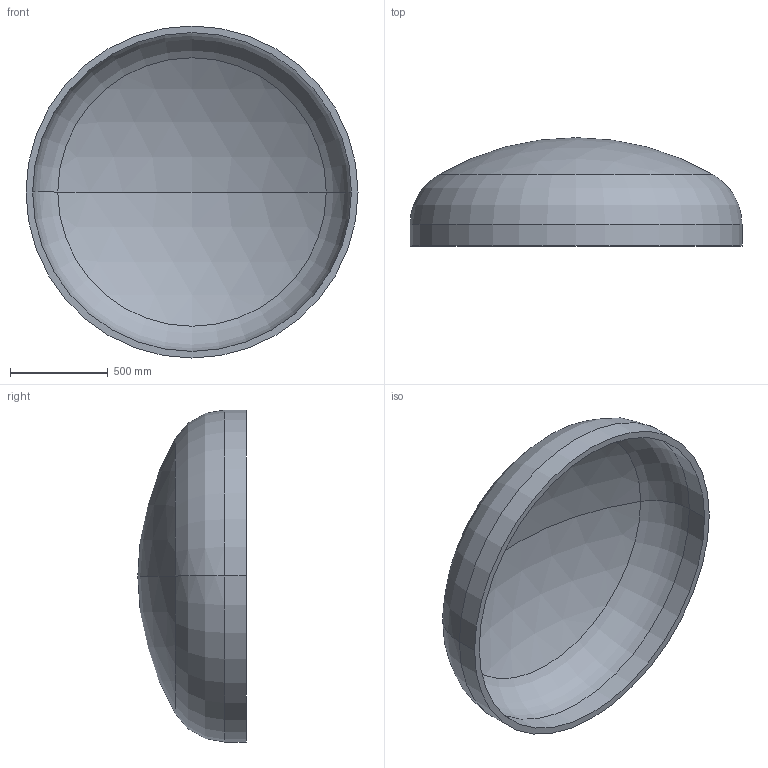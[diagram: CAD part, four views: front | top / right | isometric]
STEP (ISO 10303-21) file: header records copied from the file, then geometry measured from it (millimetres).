
FILE_DESCRIPTION (( 'STEP AP203' ), '1' );
FILE_NAME ('DIN 28013 Korbbogenform_-_Boden DIN 28013 - 1700 x 110 - I - s=34.step', '2016-07-01T11:46:50', ( '' ), ( '' ), 'SwSTEP 2.0', 'SolidWorks 2013', '' );
FILE_SCHEMA (( 'CONFIG_CONTROL_DESIGN' ));
Length unit declared in the file: millimetre
Products named in the file (1): DIN 28013 Korbbogenform_-_Boden DIN 28013 - 1700 x 110 - I - s=34
Bounding box: 1700 x 554.86 x 1700 mm (x, y, z)
Volume: 123538919.8 mm3; surface area: 7447366.5 mm2
Topology: 1 solids, 1 shells, 13 faces, 24 edges, 14 vertices
Faces by surface type: torus 4, cylinder 4, sphere 4, plane 1
Entity records: 407 total; most frequent: DIRECTION 72, CARTESIAN_POINT 52, ORIENTED_EDGE 48, AXIS2_PLACEMENT_3D 34, EDGE_CURVE 24, CIRCLE 20, VERTEX_POINT 14, EDGE_LOOP 14
